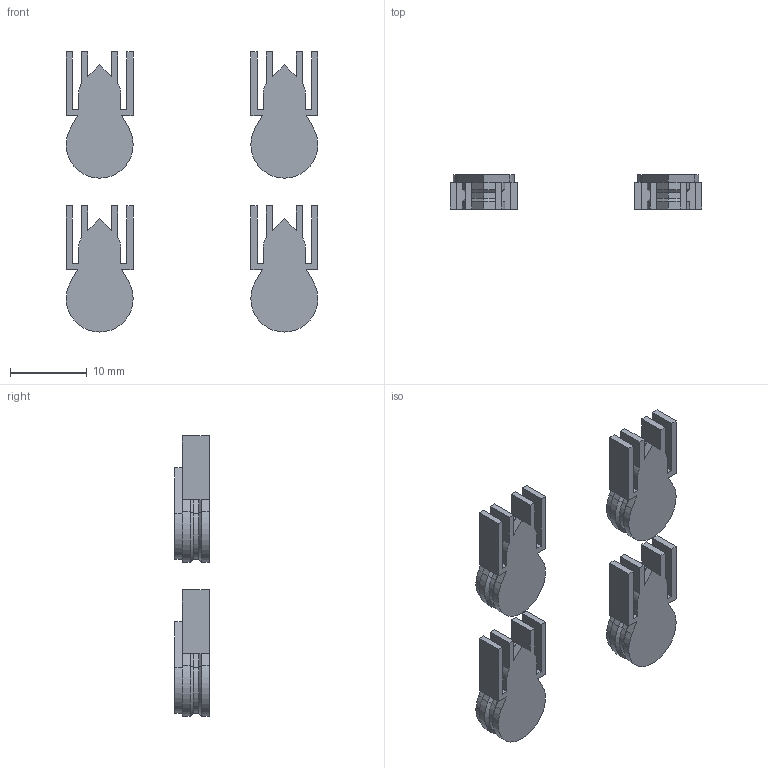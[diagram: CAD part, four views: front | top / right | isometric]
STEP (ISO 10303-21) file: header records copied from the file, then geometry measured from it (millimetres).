
FILE_DESCRIPTION(('Open CASCADE Model'),'2;1');
FILE_NAME('Open CASCADE Shape Model','2026-10-16T13:50:01',('Author'),( 'Open CASCADE'),'Open CASCADE STEP processor 8.0','build123d', 'Unknown');
FILE_SCHEMA(('AUTOMOTIVE_DESIGN { 1 0 10303 214 1 1 1 1 }'));
Length unit declared in the file: millimetre
Products named in the file (1): COMPOUND
Bounding box: 32.7 x 4.5 x 36.4 mm (x, y, z)
Volume: 1684.4 mm3; surface area: 2249.8 mm2
Topology: 4 solids, 4 shells, 308 faces, 876 edges, 576 vertices
Faces by surface type: plane 220, cylinder 32, bspline 32, cone 24
Entity records: 21108 total; most frequent: CARTESIAN_POINT 4761, DIRECTION 2634, LINE 1780, VECTOR 1780, ORIENTED_EDGE 1752, PCURVE 1752, DEFINITIONAL_REPRESENTATION 1752, EDGE_CURVE 876
